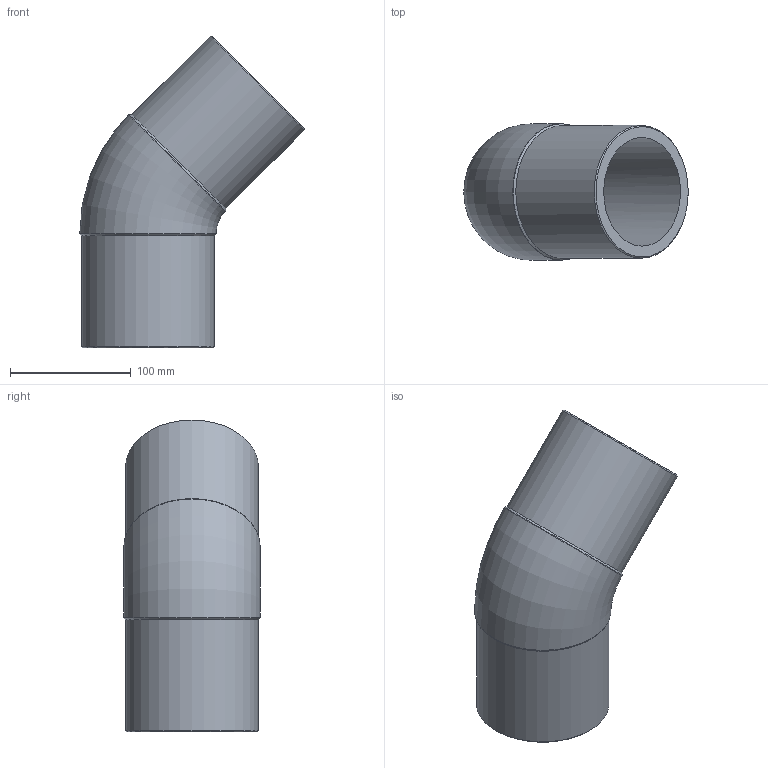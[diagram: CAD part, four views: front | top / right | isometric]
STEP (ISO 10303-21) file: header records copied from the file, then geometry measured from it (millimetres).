
FILE_DESCRIPTION(/* description */ ('Unknown'),/* implementation_level */ '2;1');
FILE_NAME(/* name */ 'G4P110C',/* time_stamp */ '2022-01-19T10:35:29+01:00',/* author */ ('Unknown'),/* organization */ ('Unknown'),/* preprocessor_version */ 'ST-DEVELOPER v18.1',/* originating_system */ 'Solid Edge',/* authorisation */ 'Unknown');
FILE_SCHEMA (('AUTOMOTIVE_DESIGN {1 0 10303 214 3 1 1}'));
Length unit declared in the file: millimetre
Products named in the file (1): G4P110C
Bounding box: 185.9 x 113 x 258.4 mm (x, y, z)
Volume: 838695.6 mm3; surface area: 166864.2 mm2
Topology: 1 solids, 1 shells, 14 faces, 34 edges, 22 vertices
Faces by surface type: cylinder 6, cone 4, plane 2, torus 2
Full cylindrical faces by diameter (mm): 90 x2, 110 x2, 113 x2
Entity records: 368 total; most frequent: CARTESIAN_POINT 68, DIRECTION 60, ORIENTED_EDGE 38, AXIS2_PLACEMENT_3D 30, EDGE_LOOP 27, FACE_BOUND 27, EDGE_CURVE 19, VERTEX_POINT 18
